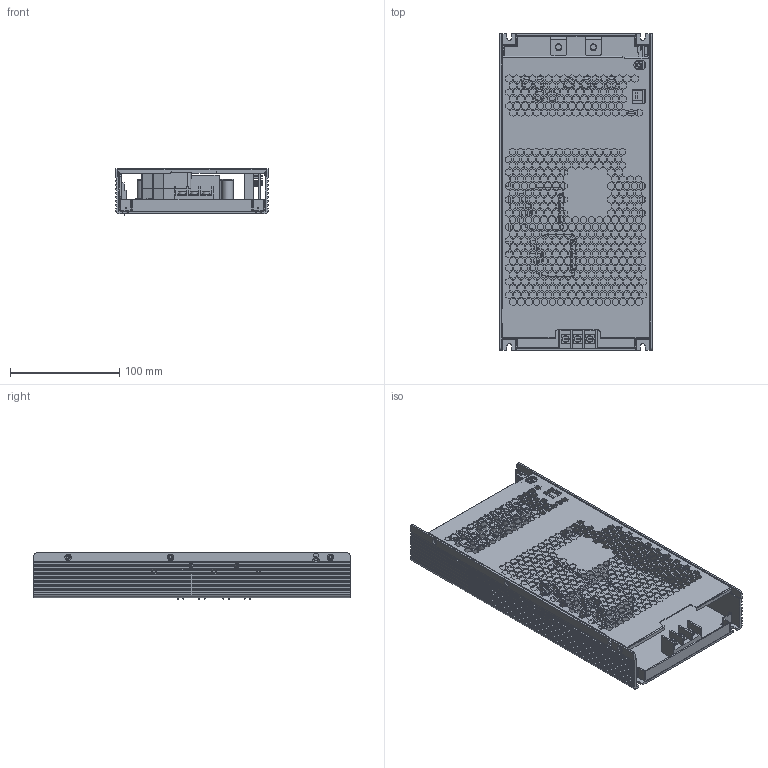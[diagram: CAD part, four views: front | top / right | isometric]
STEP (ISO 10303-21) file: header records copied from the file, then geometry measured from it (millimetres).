
FILE_DESCRIPTION(('Creo Elements/Direct Modeling STEP Export'),'2;1');
FILE_NAME('UHP-1500.stp','2019-09-09T 9:56:13',(''),(''),'PTC Creo Elements/Direct Modeling STEP processor for AP214 (Solid Model)','PTC Creo Elements/Direct Modeling 19.0 09-May-2014 (C) Parametric Technology GmbH','');
FILE_SCHEMA(('AUTOMOTIVE_DESIGN { 1 0 10303 214 1 1 1 1 }'));
Length unit declared in the file: millimetre
Products named in the file (732): M3-7L.1; HSP-300A-D.1; a2; USER_LIBRARY-TO220-2_V-L_FUSI_2.PRT; BD1.ASM; a1; VEL-4630AM_ASM_6.ASM; VEL-4630.stp; VCL5130.stp; RD-9MAR-32.STEP; 1FF1-8822.ASM; 1FF1-8822_1871507285.ASM; 77637744.ASM; 1187647648.ASM; 1187647784.ASM; TSW1.ASM; UHP-1000-L100.ASM; 1187651320.ASM; 1187651456.ASM; L100.ASM; 873362896.ASM; 873363032.ASM; 873362760.ASM; CN5.ASM; 1EE4-UHP-1000-TB2.ASM.6; 1EE4-UHP-1000-TB2_475004475.ASM.5; 77638696.ASM; 77638832.ASM; TB2.ASM; U950.ASM; C40.ASM; 1CDX-TO220F-A_AKA_-VT-1.PRT; 1CDX-TO220F-A_AKA_-VT-1_3608228.ASM; 77632984.ASM.6; Q61.ASM; U201.ASM; U101.ASM; TB3.ASM; C917.ASM; C47.ASM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
Assembly tree (1290 placements, depth 7):
  UHP-1500
    p3.1.1.1  x2
    p2
    p1.1
    p1  x2
    p4
    uhp-1500
      BASE
        TTZ
      UHP-1000-0327.step.1
        a1
          1ee4nel-400-2P  x2
            lsz.1
              lsz.2
        PCB
        JS100107.1
          1.2.1
    1XX3HSP-300_GAI2015_07_21__PRT.ASM
    694085008.ASM
      EXTRUDED-46917.PRT
    AL__.stp
      _X2_7D445408_X0_2.ASM
        AL.PRT
        PCB.PRT
    ECY-39.stp  x2
      ECY3930V-01-10_STP.ASM
        ECY3930V_ASM_STP_ASM.ASM
          ASM0001_ASM_3_ASM_ASM.ASM
            DNO_3_PRT_PRT.PRT  x2
            ECY3930V_26_PRT_PRT.PRT
    MHS041A.1
    PAD.2  x3
    PAD45.1  x2
    PCB-B
      ¨■¥ñ.1.1.1.1.1.1.1.1.1.2
      VR70.ASM
        1AR-_3362W.ASM
          1AR-_3362W_5.PRT
    PCB.ASM
      J101.ASM
        R2512.ASM
      R472.ASM
        873205872.ASM
      C487.ASM
      SR85.ASM
      R807.ASM
        873205872.ASM
      C801.ASM
      D784.ASM
      C735.ASM
      C755.ASM
      C756.ASM
      C757.ASM
      D731.ASM
      R732.ASM
        1184771040.ASM
      R733.ASM
        873206896.ASM
      R736.ASM
        873206896.ASM
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Bounding box: 140 x 290 x 42.41 mm (x, y, z)
Volume: 392886.9 mm3; surface area: 381675.9 mm2
Topology: 53 solids, 53 shells, 5304 faces, 14974 edges, 9862 vertices
Faces by surface type: plane 4253, cylinder 759, cone 124, torus 104, extrusion 57, sphere 7
Entity records: 166325 total; most frequent: CARTESIAN_POINT 30143, ORIENTED_EDGE 25054, DIRECTION 24023, EDGE_CURVE 12527, VECTOR 10951, LINE 10894, VERTEX_POINT 8283, AXIS2_PLACEMENT_3D 6536
